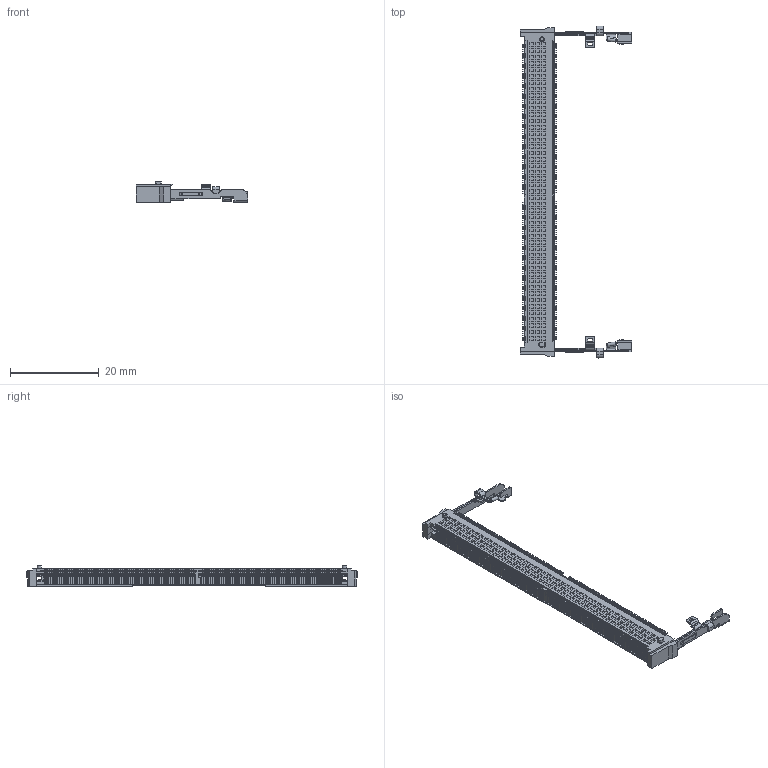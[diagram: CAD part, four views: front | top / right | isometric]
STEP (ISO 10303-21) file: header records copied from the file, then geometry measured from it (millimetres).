
FILE_DESCRIPTION((''),'2;1');
FILE_NAME('STD_SW0004','2022-01-06T',('huangchang'),(''),'PRO/ENGINEER BY PARAMETRIC TECHNOLOGY CORPORATION, 2009360','PRO/ENGINEER BY PARAMETRIC TECHNOLOGY CORPORATION, 2009360','');
FILE_SCHEMA(('CONFIG_CONTROL_DESIGN'));
Products named in the file (1): STD_SW0004
Bounding box: 25.16 x 74.78 x 4.72 mm (x, y, z)
Volume: 1337.4 mm3; surface area: 2959.3 mm2
Topology: 1 solids, 1 shells, 10957 faces, 31271 edges, 20730 vertices
Faces by surface type: plane 7487, cylinder 3431, torus 18, bspline 17, cone 4
Entity records: 435470 total; most frequent: CARTESIAN_POINT 66131, ORIENTED_EDGE 62542, DIRECTION 59920, EDGE_CURVE 31271, VECTOR 24330, LINE 24330, VERTEX_POINT 20730, AXIS2_PLACEMENT_3D 17795
